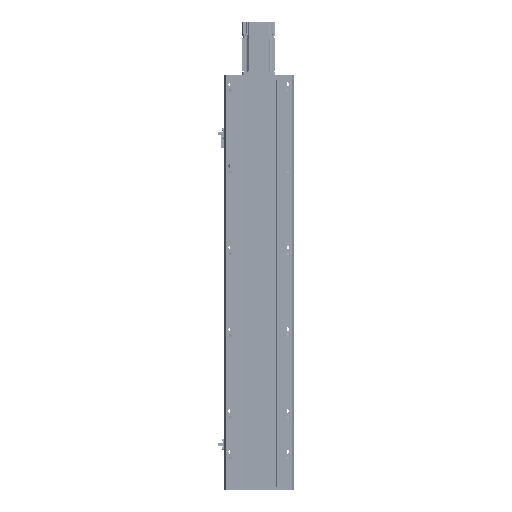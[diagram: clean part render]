
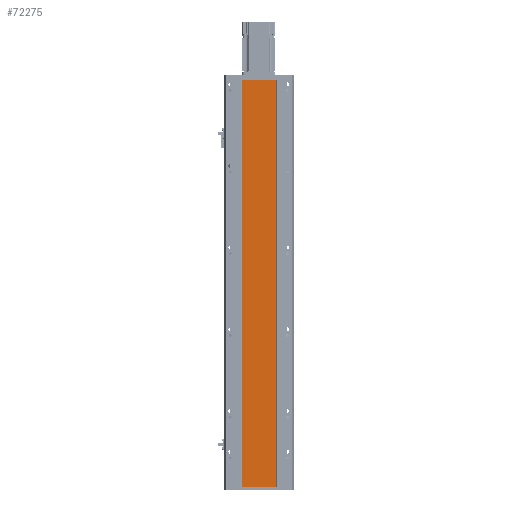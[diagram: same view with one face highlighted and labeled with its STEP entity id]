
A CAD part, front view. The second image highlights one B-rep face of the part: STEP entity #72275.
In plain terms, the highlighted planar face has unit normal (0, -1, 0).
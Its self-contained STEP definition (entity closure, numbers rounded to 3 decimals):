
#160 = LINE ( 'NONE', #2418, #84871 ) ;
#2418 = CARTESIAN_POINT ( 'NONE',  ( 42., 0., -995. ) ) ;
#3146 = DIRECTION ( 'NONE',  ( 0., 0., 1. ) ) ;
#5593 = DIRECTION ( 'NONE',  ( 0., -1., 0. ) ) ;
#6327 = VERTEX_POINT ( 'NONE', #97786 ) ;
#7183 = CARTESIAN_POINT ( 'NONE',  ( -42., 0., 0. ) ) ;
#9838 = ORIENTED_EDGE ( 'NONE', *, *, #61897, .T. ) ;
#12027 = LINE ( 'NONE', #12842, #36492 ) ;
#12842 = CARTESIAN_POINT ( 'NONE',  ( -42., 0., -995. ) ) ;
#17114 = EDGE_LOOP ( 'NONE', ( #99625, #33634, #73219, #9838 ) ) ;
#29244 = VECTOR ( 'NONE', #44601, 1000. ) ;
#30345 = PLANE ( 'NONE',  #101521 ) ;
#33634 = ORIENTED_EDGE ( 'NONE', *, *, #35063, .F. ) ;
#35063 = EDGE_CURVE ( 'NONE', #49401, #64942, #12027, .T. ) ;
#36154 = CARTESIAN_POINT ( 'NONE',  ( -42., 0., -995. ) ) ;
#36492 = VECTOR ( 'NONE', #78498, 1000. ) ;
#36723 = CARTESIAN_POINT ( 'NONE',  ( -42., 0., 0. ) ) ;
#42325 = CARTESIAN_POINT ( 'NONE',  ( 42., 0., 0. ) ) ;
#44601 = DIRECTION ( 'NONE',  ( 1., 0., 0. ) ) ;
#47922 = VECTOR ( 'NONE', #57714, 1000. ) ;
#49401 = VERTEX_POINT ( 'NONE', #36154 ) ;
#49415 = CARTESIAN_POINT ( 'NONE',  ( -42., 0., -995. ) ) ;
#50452 = LINE ( 'NONE', #49415, #47922 ) ;
#57714 = DIRECTION ( 'NONE',  ( 1., 0., 0. ) ) ;
#61897 = EDGE_CURVE ( 'NONE', #6327, #63017, #160, .T. ) ;
#63017 = VERTEX_POINT ( 'NONE', #42325 ) ;
#64942 = VERTEX_POINT ( 'NONE', #7183 ) ;
#71185 = CARTESIAN_POINT ( 'NONE',  ( -42., 0., -995. ) ) ;
#72275 = ADVANCED_FACE ( 'NONE', ( #74028 ), #30345, .T. ) ;
#73219 = ORIENTED_EDGE ( 'NONE', *, *, #100577, .T. ) ;
#74028 = FACE_OUTER_BOUND ( 'NONE', #17114, .T. ) ;
#78498 = DIRECTION ( 'NONE',  ( 0., 0., 1. ) ) ;
#84871 = VECTOR ( 'NONE', #3146, 1000. ) ;
#87738 = DIRECTION ( 'NONE',  ( 0., 0., -1. ) ) ;
#92057 = LINE ( 'NONE', #36723, #29244 ) ;
#97786 = CARTESIAN_POINT ( 'NONE',  ( 42., 0., -995. ) ) ;
#99625 = ORIENTED_EDGE ( 'NONE', *, *, #104752, .F. ) ;
#100577 = EDGE_CURVE ( 'NONE', #49401, #6327, #50452, .T. ) ;
#101521 = AXIS2_PLACEMENT_3D ( 'NONE', #71185, #5593, #87738 ) ;
#104752 = EDGE_CURVE ( 'NONE', #64942, #63017, #92057, .T. ) ;
